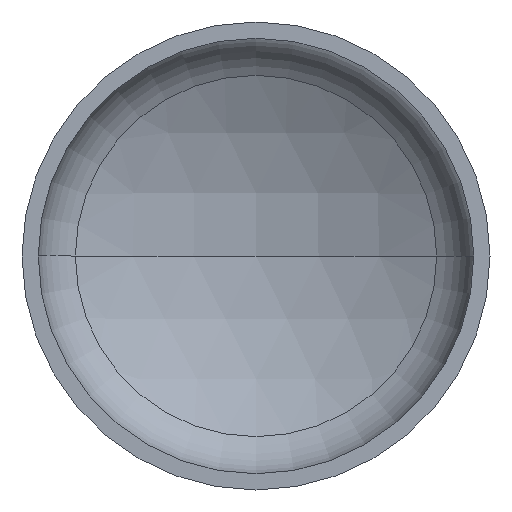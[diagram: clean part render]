
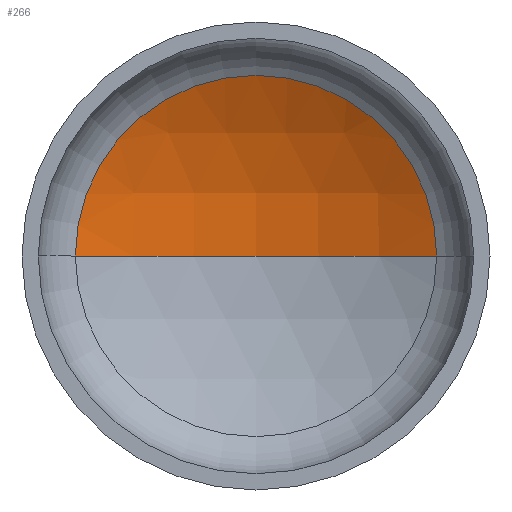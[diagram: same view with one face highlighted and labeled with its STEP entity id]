
A CAD part, front view. The second image highlights one B-rep face of the part: STEP entity #266.
In plain terms, the highlighted spherical face has radius 2400 mm.
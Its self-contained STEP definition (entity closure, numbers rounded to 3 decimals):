
#6 = DIRECTION ( 'NONE',  ( -1., 0., 0. ) ) ;
#9 = AXIS2_PLACEMENT_3D ( 'NONE', #392, #178, #106 ) ;
#12 = DIRECTION ( 'NONE',  ( 0., 0., 1. ) ) ;
#22 = EDGE_LOOP ( 'NONE', ( #155, #107, #150 ) ) ;
#25 = AXIS2_PLACEMENT_3D ( 'NONE', #267, #12, #98 ) ;
#29 = AXIS2_PLACEMENT_3D ( 'NONE', #210, #374, #6 ) ;
#32 = AXIS2_PLACEMENT_3D ( 'NONE', #220, #223, #206 ) ;
#68 = EDGE_CURVE ( 'NONE', #162, #118, #111, .T. ) ;
#89 = CARTESIAN_POINT ( 'NONE',  ( -1157.938, 477.919, 0. ) ) ;
#90 = EDGE_CURVE ( 'NONE', #175, #162, #196, .T. ) ;
#98 = DIRECTION ( 'NONE',  ( 1., 0., 0. ) ) ;
#106 = DIRECTION ( 'NONE',  ( -1., 0., 0. ) ) ;
#107 = ORIENTED_EDGE ( 'NONE', *, *, #90, .T. ) ;
#111 = CIRCLE ( 'NONE', #32, 1157.938 ) ;
#118 = VERTEX_POINT ( 'NONE', #89 ) ;
#128 = EDGE_CURVE ( 'NONE', #175, #118, #319, .T. ) ;
#150 = ORIENTED_EDGE ( 'NONE', *, *, #68, .T. ) ;
#155 = ORIENTED_EDGE ( 'NONE', *, *, #128, .F. ) ;
#162 = VERTEX_POINT ( 'NONE', #216 ) ;
#175 = VERTEX_POINT ( 'NONE', #207 ) ;
#178 = DIRECTION ( 'NONE',  ( 0., 0., -1. ) ) ;
#196 = CIRCLE ( 'NONE', #29, 2400. ) ;
#206 = DIRECTION ( 'NONE',  ( 1., 0., 0. ) ) ;
#207 = CARTESIAN_POINT ( 'NONE',  ( 0., 775.734, 0. ) ) ;
#210 = CARTESIAN_POINT ( 'NONE',  ( 0., -1624.266, 0. ) ) ;
#216 = CARTESIAN_POINT ( 'NONE',  ( 1157.938, 477.919, 0. ) ) ;
#220 = CARTESIAN_POINT ( 'NONE',  ( 0., 477.919, 0. ) ) ;
#223 = DIRECTION ( 'NONE',  ( 0., -1., 0. ) ) ;
#236 = SPHERICAL_SURFACE ( 'NONE', #9, 2400. ) ;
#266 = ADVANCED_FACE ( 'NONE', ( #366 ), #236, .F. ) ;
#267 = CARTESIAN_POINT ( 'NONE',  ( 0., -1624.266, 0. ) ) ;
#319 = CIRCLE ( 'NONE', #25, 2400. ) ;
#366 = FACE_OUTER_BOUND ( 'NONE', #22, .T. ) ;
#374 = DIRECTION ( 'NONE',  ( 0., 0., -1. ) ) ;
#392 = CARTESIAN_POINT ( 'NONE',  ( 0., -1624.266, 0. ) ) ;
